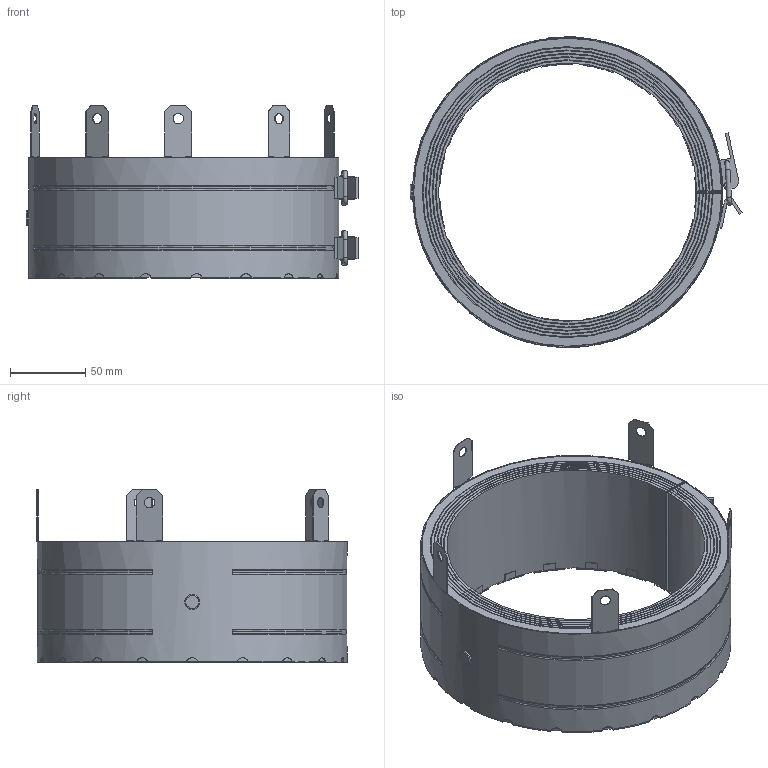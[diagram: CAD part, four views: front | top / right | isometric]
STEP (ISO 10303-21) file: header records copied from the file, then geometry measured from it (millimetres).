
FILE_DESCRIPTION(/* description */ (''),/* implementation_level */ '2;1');
FILE_NAME(/* name */ 'H:\Geberit-Teile\Export\RS90 plus\stp\348335.stp',/* time_stamp */ '2017-03-24T12:30:29+01:00',/* author */ ('seihe2'),/* organization */ (''),/* preprocessor_version */ 'ST-DEVELOPER v15.2',/* originating_system */ 'Autodesk Inventor 2014',/* authorisation */ '');
FILE_SCHEMA (('AUTOMOTIVE_DESIGN { 1 0 10303 214 3 1 1 }'));
Length unit declared in the file: millimetre
Products named in the file (1): 348335
Bounding box: 220.43 x 206.17 x 114.5 mm (x, y, z)
Volume: 696078.4 mm3; surface area: 695749.4 mm2
Topology: 4 solids, 4 shells, 416 faces, 1213 edges, 771 vertices
Faces by surface type: plane 286, cylinder 113, torus 17
Full cylindrical faces by diameter (mm): 3 x6, 3.5 x4, 4 x6, 7 x5, 10 x1
Entity records: 14882 total; most frequent: CARTESIAN_POINT 3352, ORIENTED_EDGE 2360, DIRECTION 2295, EDGE_CURVE 1173, AXIS2_PLACEMENT_3D 801, VERTEX_POINT 762, LINE 693, VECTOR 693
